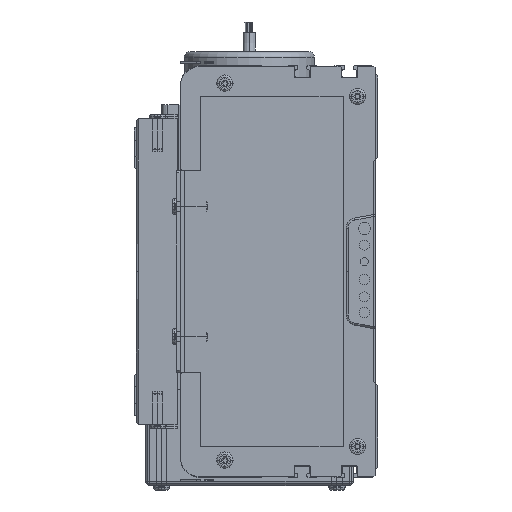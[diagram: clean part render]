
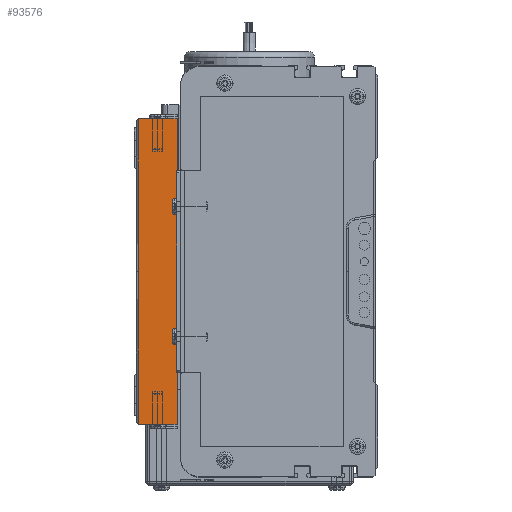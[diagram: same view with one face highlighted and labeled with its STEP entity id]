
A CAD part, left-side view. The second image highlights one B-rep face of the part: STEP entity #93576.
In plain terms, the highlighted planar face has unit normal (-1, 0, 0).
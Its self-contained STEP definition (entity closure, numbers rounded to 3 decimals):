
#22083 = DIRECTION ( 'NONE',  ( 0., 0., 1. ) ) ;
#22085 = VECTOR ( 'NONE', #22083, 1000. ) ;
#22086 = CARTESIAN_POINT ( 'NONE',  ( 0., 0., 0. ) ) ;
#22088 = LINE ( 'NONE', #22086, #22085 ) ;
#22115 = CARTESIAN_POINT ( 'NONE',  ( 0., 0., -75. ) ) ;
#23332 = CARTESIAN_POINT ( 'NONE',  ( 0., 19., -75. ) ) ;
#23344 = LINE ( 'NONE', #23402, #23351 ) ;
#23351 = VECTOR ( 'NONE', #23405, 1000. ) ;
#23384 = DIRECTION ( 'NONE',  ( 0., -1., 0. ) ) ;
#23385 = VECTOR ( 'NONE', #23384, 1000. ) ;
#23388 = CARTESIAN_POINT ( 'NONE',  ( 0., 20., 75. ) ) ;
#23389 = LINE ( 'NONE', #23388, #23385 ) ;
#23394 = CARTESIAN_POINT ( 'NONE',  ( 0., 19., 75. ) ) ;
#23402 = CARTESIAN_POINT ( 'NONE',  ( 0., 20., -75. ) ) ;
#23405 = DIRECTION ( 'NONE',  ( 0., -1., 0. ) ) ;
#23416 = CARTESIAN_POINT ( 'NONE',  ( 0., 0., 75. ) ) ;
#23437 = FACE_OUTER_BOUND ( 'NONE', #93502, .T. ) ;
#23444 = PLANE ( 'NONE',  #23457 ) ;
#23457 = AXIS2_PLACEMENT_3D ( 'NONE', #23489, #23485, #23484 ) ;
#23483 = CARTESIAN_POINT ( 'NONE',  ( 0., 19., 0. ) ) ;
#23484 = DIRECTION ( 'NONE',  ( 0., 0., -1. ) ) ;
#23485 = DIRECTION ( 'NONE',  ( 1., 0., 0. ) ) ;
#23486 = DIRECTION ( 'NONE',  ( 0., 0., -1. ) ) ;
#23487 = VECTOR ( 'NONE', #23486, 1000. ) ;
#23488 = CARTESIAN_POINT ( 'NONE',  ( 0., 19., 0. ) ) ;
#23489 = CARTESIAN_POINT ( 'NONE',  ( 0., 20., 0. ) ) ;
#23496 = LINE ( 'NONE', #23488, #23487 ) ;
#23599 = CARTESIAN_POINT ( 'NONE',  ( 0., 19., 0. ) ) ;
#23601 = LINE ( 'NONE', #23599, #23650 ) ;
#23649 = DIRECTION ( 'NONE',  ( 0., 0., -1. ) ) ;
#23650 = VECTOR ( 'NONE', #23649, 1000. ) ;
#93354 = VERTEX_POINT ( 'NONE', #22115 ) ;
#93355 = EDGE_CURVE ( 'NONE', #93354, #93551, #22088, .T. ) ;
#93498 = VERTEX_POINT ( 'NONE', #23332 ) ;
#93502 = EDGE_LOOP ( 'NONE', ( #93579, #93582, #93673, #93580, #93675 ) ) ;
#93525 = EDGE_CURVE ( 'NONE', #93498, #93354, #23344, .T. ) ;
#93536 = VERTEX_POINT ( 'NONE', #23394 ) ;
#93538 = EDGE_CURVE ( 'NONE', #93536, #93551, #23389, .T. ) ;
#93551 = VERTEX_POINT ( 'NONE', #23416 ) ;
#93576 = ADVANCED_FACE ( 'NONE', ( #23437 ), #23444, .F. ) ;
#93579 = ORIENTED_EDGE ( 'NONE', *, *, #93538, .F. ) ;
#93580 = ORIENTED_EDGE ( 'NONE', *, *, #93525, .T. ) ;
#93582 = ORIENTED_EDGE ( 'NONE', *, *, #93689, .T. ) ;
#93583 = EDGE_CURVE ( 'NONE', #93584, #93498, #23496, .T. ) ;
#93584 = VERTEX_POINT ( 'NONE', #23483 ) ;
#93673 = ORIENTED_EDGE ( 'NONE', *, *, #93583, .T. ) ;
#93675 = ORIENTED_EDGE ( 'NONE', *, *, #93355, .T. ) ;
#93689 = EDGE_CURVE ( 'NONE', #93536, #93584, #23601, .T. ) ;
